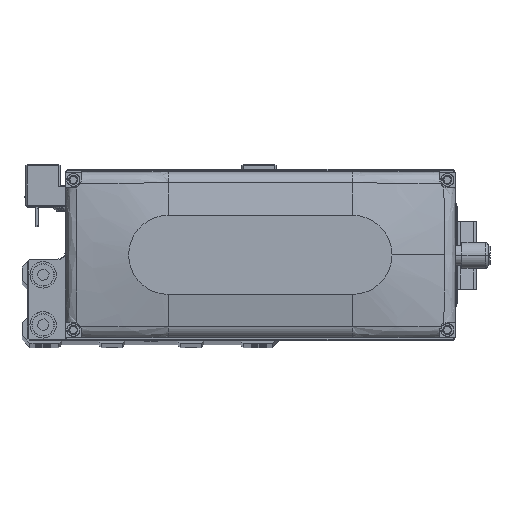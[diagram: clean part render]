
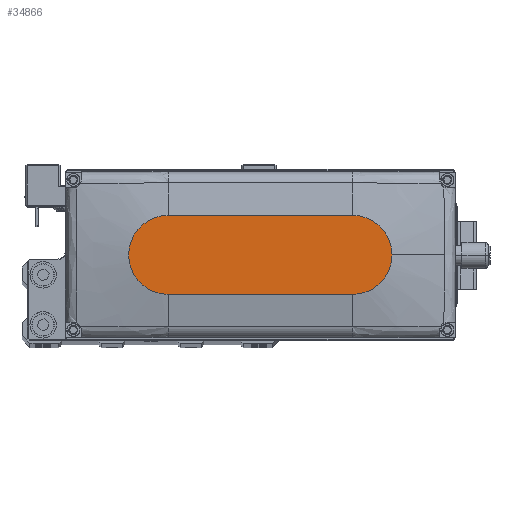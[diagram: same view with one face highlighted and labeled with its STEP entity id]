
A CAD part, top view. The second image highlights one B-rep face of the part: STEP entity #34866.
In plain terms, the highlighted planar face has unit normal (0, 0, 1).
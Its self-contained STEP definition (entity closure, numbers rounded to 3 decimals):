
#1057 = CARTESIAN_POINT ( 'NONE',  ( 35., -15., 35. ) ) ;
#1226 = VECTOR ( 'NONE', #2564, 1000. ) ;
#1939 = VERTEX_POINT ( 'NONE', #12022 ) ;
#2173 = DIRECTION ( 'NONE',  ( 1., 0., 0. ) ) ;
#2351 = CARTESIAN_POINT ( 'NONE',  ( 35., 0., 35. ) ) ;
#2564 = DIRECTION ( 'NONE',  ( 1., 0., 0. ) ) ;
#2638 = VERTEX_POINT ( 'NONE', #21544 ) ;
#4551 = ORIENTED_EDGE ( 'NONE', *, *, #36163, .T. ) ;
#5140 = CARTESIAN_POINT ( 'NONE',  ( -35., 15., 35. ) ) ;
#5453 = PLANE ( 'NONE',  #15867 ) ;
#5845 = DIRECTION ( 'NONE',  ( 1., 0., 0. ) ) ;
#6416 = EDGE_LOOP ( 'NONE', ( #28289, #4551, #31601, #43223, #18240 ) ) ;
#6535 = VERTEX_POINT ( 'NONE', #12322 ) ;
#9860 = LINE ( 'NONE', #23268, #19171 ) ;
#10028 = DIRECTION ( 'NONE',  ( 1., 0., 0. ) ) ;
#11737 = CIRCLE ( 'NONE', #36301, 15. ) ;
#12022 = CARTESIAN_POINT ( 'NONE',  ( 50., 0., 35. ) ) ;
#12322 = CARTESIAN_POINT ( 'NONE',  ( -35., -15., 35. ) ) ;
#12440 = VERTEX_POINT ( 'NONE', #5140 ) ;
#15746 = DIRECTION ( 'NONE',  ( 0., 0., 1. ) ) ;
#15867 = AXIS2_PLACEMENT_3D ( 'NONE', #18885, #32269, #2173 ) ;
#18240 = ORIENTED_EDGE ( 'NONE', *, *, #27813, .T. ) ;
#18351 = AXIS2_PLACEMENT_3D ( 'NONE', #2351, #15746, #29128 ) ;
#18885 = CARTESIAN_POINT ( 'NONE',  ( 0., 0., 35. ) ) ;
#19171 = VECTOR ( 'NONE', #36660, 1000. ) ;
#19280 = LINE ( 'NONE', #32662, #1226 ) ;
#20185 = AXIS2_PLACEMENT_3D ( 'NONE', #22570, #35969, #5845 ) ;
#21544 = CARTESIAN_POINT ( 'NONE',  ( 35., 15., 35. ) ) ;
#22570 = CARTESIAN_POINT ( 'NONE',  ( -35., 0., 35. ) ) ;
#23268 = CARTESIAN_POINT ( 'NONE',  ( -35., 15., 35. ) ) ;
#24842 = VERTEX_POINT ( 'NONE', #1057 ) ;
#25049 = EDGE_CURVE ( 'NONE', #24842, #1939, #37309, .T. ) ;
#26735 = CARTESIAN_POINT ( 'NONE',  ( 35., 0., 35. ) ) ;
#27813 = EDGE_CURVE ( 'NONE', #1939, #2638, #11737, .T. ) ;
#28289 = ORIENTED_EDGE ( 'NONE', *, *, #29933, .T. ) ;
#29128 = DIRECTION ( 'NONE',  ( 1., 0., 0. ) ) ;
#29933 = EDGE_CURVE ( 'NONE', #2638, #12440, #9860, .T. ) ;
#31601 = ORIENTED_EDGE ( 'NONE', *, *, #36169, .T. ) ;
#32269 = DIRECTION ( 'NONE',  ( 0., 0., 1. ) ) ;
#32662 = CARTESIAN_POINT ( 'NONE',  ( -35., -15., 35. ) ) ;
#34866 = ADVANCED_FACE ( 'NONE', ( #35565 ), #5453, .T. ) ;
#35565 = FACE_OUTER_BOUND ( 'NONE', #6416, .T. ) ;
#35969 = DIRECTION ( 'NONE',  ( 0., 0., 1. ) ) ;
#36163 = EDGE_CURVE ( 'NONE', #12440, #6535, #39107, .T. ) ;
#36169 = EDGE_CURVE ( 'NONE', #6535, #24842, #19280, .T. ) ;
#36301 = AXIS2_PLACEMENT_3D ( 'NONE', #26735, #40139, #10028 ) ;
#36660 = DIRECTION ( 'NONE',  ( -1., 0., 0. ) ) ;
#37309 = CIRCLE ( 'NONE', #18351, 15. ) ;
#39107 = CIRCLE ( 'NONE', #20185, 15. ) ;
#40139 = DIRECTION ( 'NONE',  ( 0., 0., 1. ) ) ;
#43223 = ORIENTED_EDGE ( 'NONE', *, *, #25049, .T. ) ;
